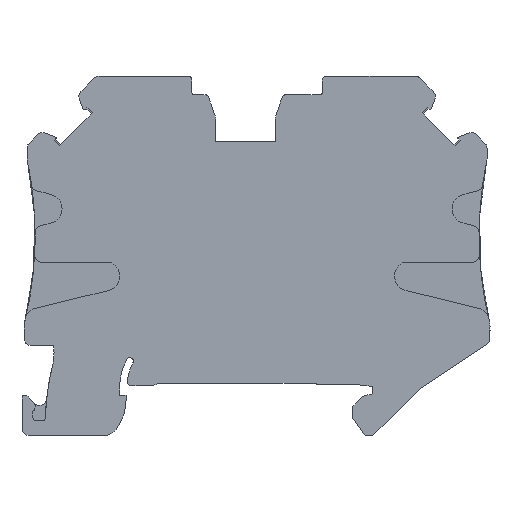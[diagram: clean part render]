
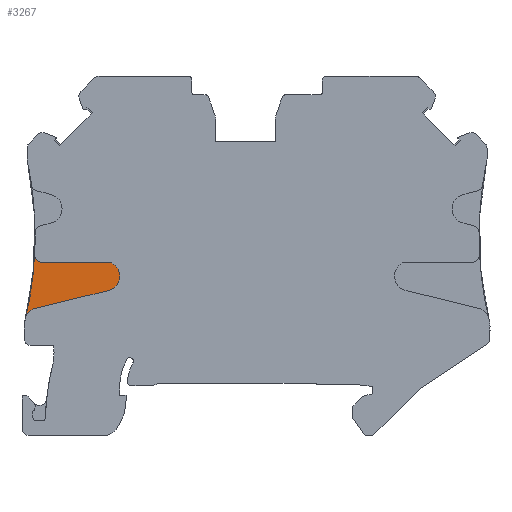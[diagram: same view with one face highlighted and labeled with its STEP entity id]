
A CAD part, front view. The second image highlights one B-rep face of the part: STEP entity #3267.
In plain terms, the highlighted planar face has unit normal (0, -1, 0).
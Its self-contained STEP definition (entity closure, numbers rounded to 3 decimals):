
#3194=CARTESIAN_POINT('',(-25.069,5.55,13.59));
#3195=DIRECTION('',(0.,0.,1.));
#3196=DIRECTION('',(0.,1.,0.));
#3197=AXIS2_PLACEMENT_3D('',#3194,#3196,#3195);
#3198=PLANE('',#3197);
#3199=CARTESIAN_POINT('',(-31.969,5.55,8.503));
#3200=VERTEX_POINT('',#3199);
#3201=CARTESIAN_POINT('',(-19.022,5.55,10.323));
#3202=VERTEX_POINT('',#3201);
#3203=CARTESIAN_POINT('',(-31.969,5.55,8.503));
#3204=DIRECTION('',(0.99,0.,0.139));
#3205=VECTOR('',#3204,13.075);
#3206=LINE('',#3203,#3205);
#3207=EDGE_CURVE('',#3200,#3202,#3206,.T.);
#3208=ORIENTED_EDGE('E2267',*,*,#3207,.F.);
#3209=CARTESIAN_POINT('',(-31.915,5.55,8.785));
#3210=VERTEX_POINT('',#3209);
#3211=CARTESIAN_POINT('',(-29.,5.55,8.075));
#3212=DIRECTION('',(-0.99,0.,0.143));
#3213=DIRECTION('',(0.,1.,0.));
#3214=AXIS2_PLACEMENT_3D('',#3211,#3213,#3212);
#3215=CIRCLE('',#3214,3.);
#3216=EDGE_CURVE('',#3200,#3210,#3215,.T.);
#3217=ORIENTED_EDGE('E2289',*,*,#3216,.T.);
#3218=CARTESIAN_POINT('',(-30.522,5.55,19.034));
#3219=VERTEX_POINT('',#3218);
#3220=CARTESIAN_POINT('',(-80.497,5.55,20.606));
#3221=DIRECTION('',(0.972,0.,-0.236));
#3222=DIRECTION('',(0.,-1.,0.));
#3223=AXIS2_PLACEMENT_3D('',#3220,#3222,#3221);
#3224=CIRCLE('',#3223,50.);
#3225=EDGE_CURVE('',#3210,#3219,#3224,.T.);
#3226=ORIENTED_EDGE('E2290',*,*,#3225,.T.);
#3227=CARTESIAN_POINT('',(-22.838,5.55,16.975));
#3228=VERTEX_POINT('',#3227);
#3229=CARTESIAN_POINT('',(-22.838,5.55,16.975));
#3230=DIRECTION('',(-0.966,0.,0.259));
#3231=VECTOR('',#3230,7.955);
#3232=LINE('',#3229,#3231);
#3233=EDGE_CURVE('',#3228,#3219,#3232,.T.);
#3234=ORIENTED_EDGE('E2281',*,*,#3233,.F.);
#3235=CARTESIAN_POINT('',(-18.138,5.55,16.975));
#3236=VERTEX_POINT('',#3235);
#3237=CARTESIAN_POINT('',(-22.838,5.55,16.975));
#3238=DIRECTION('',(1.,0.,0.));
#3239=VECTOR('',#3238,4.7);
#3240=LINE('',#3237,#3239);
#3241=EDGE_CURVE('',#3228,#3236,#3240,.T.);
#3242=ORIENTED_EDGE('E2285',*,*,#3241,.T.);
#3243=CARTESIAN_POINT('',(-18.138,5.55,10.838));
#3244=VERTEX_POINT('',#3243);
#3245=CARTESIAN_POINT('',(-18.138,5.55,16.975));
#3246=DIRECTION('',(0.,0.,-1.));
#3247=VECTOR('',#3246,6.137);
#3248=LINE('',#3245,#3247);
#3249=EDGE_CURVE('',#3236,#3244,#3248,.T.);
#3250=ORIENTED_EDGE('E2286',*,*,#3249,.T.);
#3251=CARTESIAN_POINT('',(-18.385,5.55,10.694));
#3252=VERTEX_POINT('',#3251);
#3253=CARTESIAN_POINT('',(-18.385,5.55,10.694));
#3254=DIRECTION('',(0.864,0.,0.503));
#3255=VECTOR('',#3254,0.286);
#3256=LINE('',#3253,#3255);
#3257=EDGE_CURVE('',#3252,#3244,#3256,.T.);
#3258=ORIENTED_EDGE('E2260',*,*,#3257,.F.);
#3259=CARTESIAN_POINT('',(-18.385,5.55,10.694));
#3260=DIRECTION('',(-0.864,0.,-0.503));
#3261=VECTOR('',#3260,0.737);
#3262=LINE('',#3259,#3261);
#3263=EDGE_CURVE('',#3252,#3202,#3262,.T.);
#3264=ORIENTED_EDGE('E2259',*,*,#3263,.T.);
#3265=EDGE_LOOP('',(#3208,#3217,#3226,#3234,#3242,#3250,#3258,#3264));
#3266=FACE_OUTER_BOUND('',#3265,.F.);
#3267=ADVANCED_FACE('F473',(#3266),#3198,.F.);
